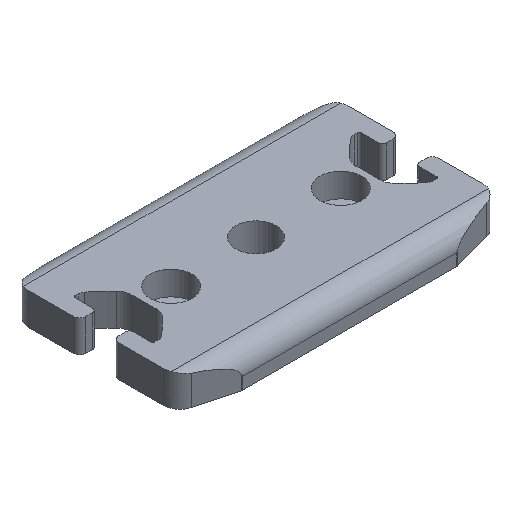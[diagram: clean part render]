
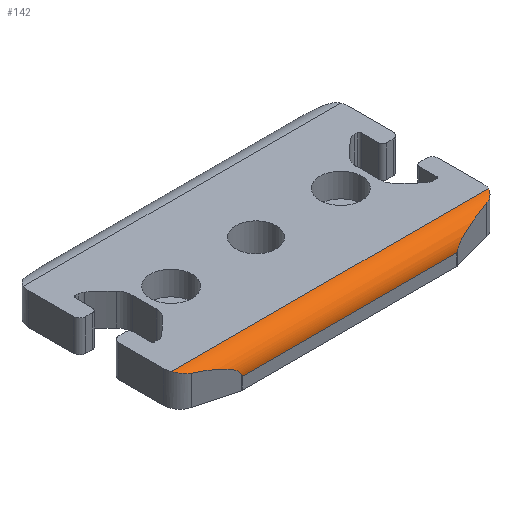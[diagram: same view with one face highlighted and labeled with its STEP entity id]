
A CAD part, isometric view. The second image highlights one B-rep face of the part: STEP entity #142.
In plain terms, the highlighted cylindrical face has radius 5 mm (diameter 10 mm), a partial arc.
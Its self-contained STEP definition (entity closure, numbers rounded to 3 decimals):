
#44=CARTESIAN_POINT('',(40.,-18.5,3.));
#45=DIRECTION('',(-1.0,0.0,0.0));
#46=DIRECTION('',(0.0,-0.314,-0.949));
#47=AXIS2_PLACEMENT_3D('',#44,#45,#46);
#48=CYLINDRICAL_SURFACE('',#47,5.);
#49=CARTESIAN_POINT('',(27.065,-23.466,3.583));
#50=VERTEX_POINT('',#49);
#51=CARTESIAN_POINT('',(26.806,-23.5,3.));
#52=VERTEX_POINT('',#51);
#53=CARTESIAN_POINT('',(27.065,-23.466,3.583));
#54=CARTESIAN_POINT('',(26.978,-23.489,3.385));
#55=CARTESIAN_POINT('',(26.891,-23.5,3.19));
#56=CARTESIAN_POINT('',(26.806,-23.5,3.));
#57=B_SPLINE_CURVE_WITH_KNOTS('',3,(#53,#54,#55,#56),.UNSPECIFIED.,.F.,.U.,(4,4),(0.963,1.025),.UNSPECIFIED.);
#58=EDGE_CURVE('',#50,#52,#57,.T.);
#59=ORIENTED_EDGE('',*,*,#58,.F.);
#60=CARTESIAN_POINT('',(37.035,-20.794,7.442));
#61=VERTEX_POINT('',#60);
#62=CARTESIAN_POINT('',(45.598,-18.5,3.));
#63=DIRECTION('',(0.259,-0.966,0.));
#64=DIRECTION('',(-0.966,-0.259,0.));
#65=AXIS2_PLACEMENT_3D('',#62,#63,#64);
#66=ELLIPSE('',#65,19.319,5.0);
#67=EDGE_CURVE('',#61,#50,#66,.T.);
#68=ORIENTED_EDGE('',*,*,#67,.F.);
#69=CARTESIAN_POINT('',(39.679,-18.5,8.0));
#70=VERTEX_POINT('',#69);
#71=CARTESIAN_POINT('',(39.679,-18.5,8.0));
#72=CARTESIAN_POINT('',(39.562,-18.775,8.0));
#73=CARTESIAN_POINT('',(39.401,-19.059,7.975));
#74=CARTESIAN_POINT('',(39.215,-19.31,7.934));
#75=CARTESIAN_POINT('',(39.116,-19.444,7.912));
#76=CARTESIAN_POINT('',(39.01,-19.57,7.886));
#77=CARTESIAN_POINT('',(38.904,-19.682,7.858));
#78=CARTESIAN_POINT('',(38.802,-19.789,7.832));
#79=CARTESIAN_POINT('',(38.695,-19.89,7.804));
#80=CARTESIAN_POINT('',(38.58,-19.987,7.774));
#81=CARTESIAN_POINT('',(38.183,-20.322,7.669));
#82=CARTESIAN_POINT('',(37.704,-20.589,7.546));
#83=CARTESIAN_POINT('',(37.193,-20.749,7.466));
#84=CARTESIAN_POINT('',(37.141,-20.765,7.458));
#85=CARTESIAN_POINT('',(37.088,-20.78,7.45));
#86=CARTESIAN_POINT('',(37.035,-20.794,7.442));
#87=B_SPLINE_CURVE_WITH_KNOTS('',3,(#71,#72,#73,#74,#75,#76,#77,#78,#79,#80,#81,#82,#83,#84,#85,#86),.UNSPECIFIED.,.F.,.U.,(4,3,3,3,3,4),(2.027,2.115,2.162,2.206,2.361,2.377),.UNSPECIFIED.);
#88=EDGE_CURVE('',#70,#61,#87,.T.);
#89=ORIENTED_EDGE('',*,*,#88,.F.);
#90=CARTESIAN_POINT('',(-39.679,-18.5,8.0));
#91=VERTEX_POINT('',#90);
#92=CARTESIAN_POINT('',(-39.679,-18.5,8.0));
#93=DIRECTION('',(1.0,0.0,0.0));
#94=VECTOR('',#93,79.359);
#95=LINE('',#92,#94);
#96=EDGE_CURVE('',#91,#70,#95,.T.);
#97=ORIENTED_EDGE('',*,*,#96,.F.);
#98=CARTESIAN_POINT('',(-37.035,-20.794,7.442));
#99=VERTEX_POINT('',#98);
#100=CARTESIAN_POINT('',(-37.035,-20.794,7.442));
#101=CARTESIAN_POINT('',(-37.552,-20.656,7.514));
#102=CARTESIAN_POINT('',(-38.043,-20.409,7.634));
#103=CARTESIAN_POINT('',(-38.457,-20.087,7.741));
#104=CARTESIAN_POINT('',(-38.608,-19.97,7.781));
#105=CARTESIAN_POINT('',(-38.749,-19.842,7.818));
#106=CARTESIAN_POINT('',(-38.878,-19.708,7.852));
#107=CARTESIAN_POINT('',(-38.978,-19.605,7.877));
#108=CARTESIAN_POINT('',(-39.077,-19.491,7.902));
#109=CARTESIAN_POINT('',(-39.171,-19.369,7.924));
#110=CARTESIAN_POINT('',(-39.375,-19.103,7.971));
#111=CARTESIAN_POINT('',(-39.553,-18.797,8.0));
#112=CARTESIAN_POINT('',(-39.679,-18.5,8.0));
#113=B_SPLINE_CURVE_WITH_KNOTS('',3,(#100,#101,#102,#103,#104,#105,#106,#107,#108,#109,#110,#111,#112),.UNSPECIFIED.,.F.,.U.,(4,3,3,3,4),(2.581,2.736,2.793,2.836,2.931),.UNSPECIFIED.);
#114=EDGE_CURVE('',#99,#91,#113,.T.);
#115=ORIENTED_EDGE('',*,*,#114,.F.);
#116=CARTESIAN_POINT('',(-27.065,-23.466,3.583));
#117=VERTEX_POINT('',#116);
#118=CARTESIAN_POINT('',(-45.598,-18.5,3.));
#119=DIRECTION('',(-0.259,-0.966,0.));
#120=DIRECTION('',(0.966,-0.259,0.));
#121=AXIS2_PLACEMENT_3D('',#118,#119,#120);
#122=ELLIPSE('',#121,19.319,5.);
#123=EDGE_CURVE('',#117,#99,#122,.T.);
#124=ORIENTED_EDGE('',*,*,#123,.F.);
#125=CARTESIAN_POINT('',(-26.806,-23.5,3.));
#126=VERTEX_POINT('',#125);
#127=CARTESIAN_POINT('',(-26.806,-23.5,3.));
#128=CARTESIAN_POINT('',(-26.891,-23.5,3.19));
#129=CARTESIAN_POINT('',(-26.978,-23.489,3.385));
#130=CARTESIAN_POINT('',(-27.065,-23.466,3.583));
#131=B_SPLINE_CURVE_WITH_KNOTS('',3,(#127,#128,#129,#130),.UNSPECIFIED.,.F.,.U.,(4,4),(0.0,0.062),.UNSPECIFIED.);
#132=EDGE_CURVE('',#126,#117,#131,.T.);
#133=ORIENTED_EDGE('',*,*,#132,.F.);
#134=CARTESIAN_POINT('',(-26.806,-23.5,3.));
#135=DIRECTION('',(1.0,0.0,0.0));
#136=VECTOR('',#135,53.612);
#137=LINE('',#134,#136);
#138=EDGE_CURVE('',#126,#52,#137,.T.);
#139=ORIENTED_EDGE('',*,*,#138,.T.);
#140=EDGE_LOOP('',(#59,#68,#89,#97,#115,#124,#133,#139));
#141=FACE_OUTER_BOUND('',#140,.T.);
#142=ADVANCED_FACE('',(#141),#48,.T.);
